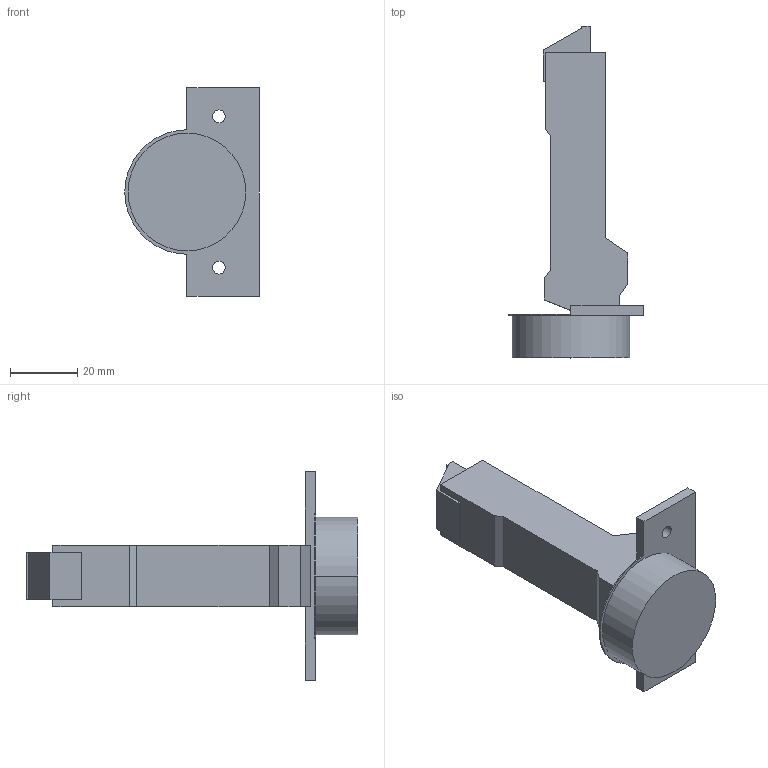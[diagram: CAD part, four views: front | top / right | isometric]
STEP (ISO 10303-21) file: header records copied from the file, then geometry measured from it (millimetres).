
FILE_DESCRIPTION (( 'STEP AP214' ), '1' );
FILE_NAME ('Scharnier TS Click-on 95° B_BB, K95.step', '2018-10-02T12:11:42', ( '' ), ( '' ), 'SwSTEP 2.0', 'SolidWorks 2017', '' );
FILE_SCHEMA (( 'AUTOMOTIVE_DESIGN' ));
Length unit declared in the file: millimetre
Products named in the file (1): Scharnier TS Click-on 95° B_BB, K95
Bounding box: 40 x 98.7 x 62 mm (x, y, z)
Volume: 42446.3 mm3; surface area: 11840.5 mm2
Topology: 1 solids, 1 shells, 48 faces, 126 edges, 84 vertices
Faces by surface type: plane 35, cylinder 13
Entity records: 1518 total; most frequent: CARTESIAN_POINT 259, ORIENTED_EDGE 252, DIRECTION 250, EDGE_CURVE 126, LINE 100, VECTOR 100, VERTEX_POINT 84, AXIS2_PLACEMENT_3D 75
